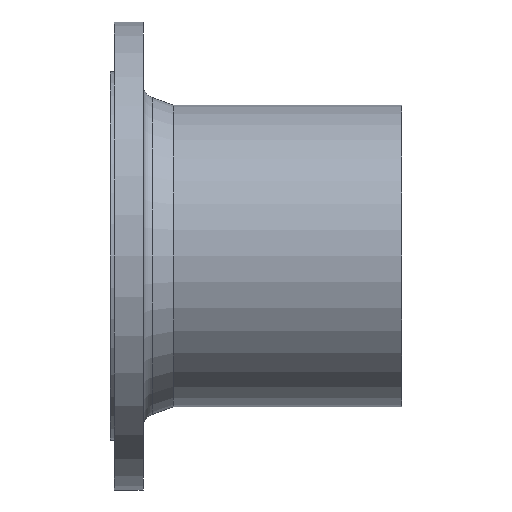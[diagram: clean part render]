
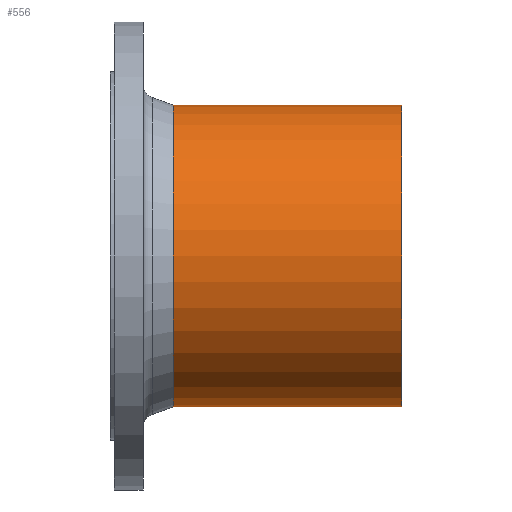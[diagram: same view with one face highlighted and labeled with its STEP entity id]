
A CAD part, front view. The second image highlights one B-rep face of the part: STEP entity #556.
In plain terms, the highlighted cylindrical face has radius 109.55 mm (diameter 219.1 mm), a full revolution.
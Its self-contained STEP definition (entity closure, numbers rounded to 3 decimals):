
#73=FACE_OUTER_BOUND('',#125,.T.);
#125=EDGE_LOOP('',(#508,#509,#510,#511,#512,#513));
#145=LINE('',#1010,#163);
#163=VECTOR('',#847,109.55);
#208=CIRCLE('',#637,109.55);
#209=CIRCLE('',#638,109.55);
#222=CIRCLE('',#659,109.55);
#223=CIRCLE('',#660,109.55);
#267=VERTEX_POINT('',#965);
#268=VERTEX_POINT('',#966);
#281=VERTEX_POINT('',#1006);
#282=VERTEX_POINT('',#1007);
#339=EDGE_CURVE('',#267,#268,#208,.T.);
#340=EDGE_CURVE('',#268,#267,#209,.T.);
#358=EDGE_CURVE('',#281,#282,#222,.T.);
#359=EDGE_CURVE('',#282,#281,#223,.T.);
#360=EDGE_CURVE('',#282,#268,#145,.T.);
#508=ORIENTED_EDGE('',*,*,#358,.F.);
#509=ORIENTED_EDGE('',*,*,#359,.F.);
#510=ORIENTED_EDGE('',*,*,#360,.T.);
#511=ORIENTED_EDGE('',*,*,#340,.T.);
#512=ORIENTED_EDGE('',*,*,#339,.T.);
#513=ORIENTED_EDGE('',*,*,#360,.F.);
#533=CYLINDRICAL_SURFACE('',#658,109.55);
#556=ADVANCED_FACE('',(#73),#533,.T.);
#637=AXIS2_PLACEMENT_3D('',#967,#794,#795);
#638=AXIS2_PLACEMENT_3D('',#968,#796,#797);
#658=AXIS2_PLACEMENT_3D('',#1005,#841,#842);
#659=AXIS2_PLACEMENT_3D('',#1008,#843,#844);
#660=AXIS2_PLACEMENT_3D('',#1009,#845,#846);
#794=DIRECTION('center_axis',(1.,0.,0.));
#795=DIRECTION('ref_axis',(0.,0.,-1.));
#796=DIRECTION('center_axis',(1.,0.,0.));
#797=DIRECTION('ref_axis',(0.,0.,-1.));
#841=DIRECTION('center_axis',(1.,0.,0.));
#842=DIRECTION('ref_axis',(0.,1.,0.));
#843=DIRECTION('center_axis',(1.,0.,0.));
#844=DIRECTION('ref_axis',(0.,1.,0.));
#845=DIRECTION('center_axis',(1.,0.,0.));
#846=DIRECTION('ref_axis',(0.,1.,0.));
#847=DIRECTION('',(-1.,0.,0.));
#965=CARTESIAN_POINT('',(-16.,109.55,0.));
#966=CARTESIAN_POINT('',(-16.,-109.55,0.));
#967=CARTESIAN_POINT('Origin',(-16.,0.,0.));
#968=CARTESIAN_POINT('Origin',(-16.,0.,0.));
#1005=CARTESIAN_POINT('Origin',(0.,0.,0.));
#1006=CARTESIAN_POINT('',(150.,109.55,0.));
#1007=CARTESIAN_POINT('',(150.,-109.55,0.));
#1008=CARTESIAN_POINT('Origin',(150.,0.,0.));
#1009=CARTESIAN_POINT('Origin',(150.,0.,0.));
#1010=CARTESIAN_POINT('',(0.,-109.55,0.));
